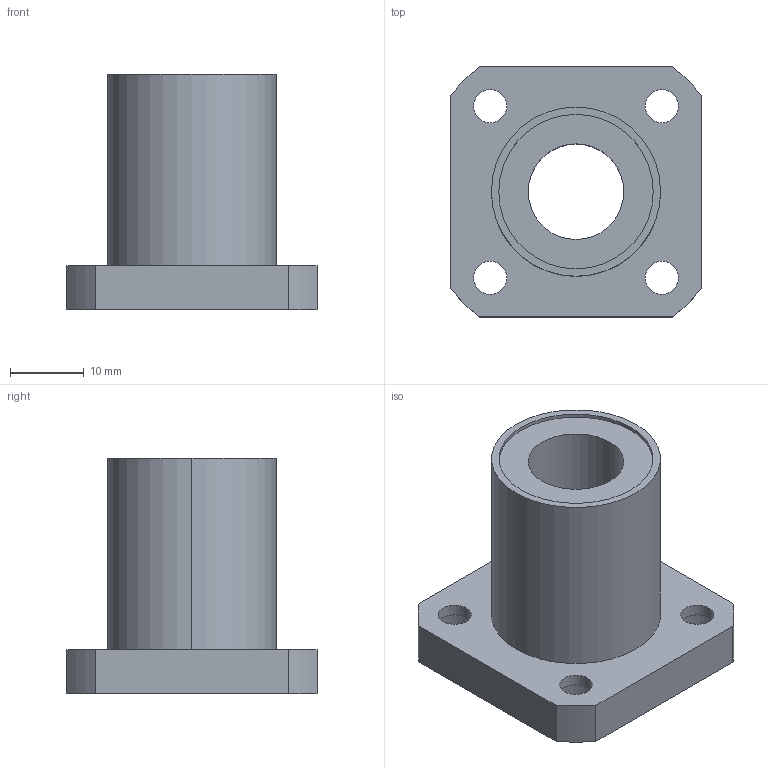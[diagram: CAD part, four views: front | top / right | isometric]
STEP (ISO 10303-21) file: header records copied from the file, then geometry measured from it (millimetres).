
FILE_DESCRIPTION((''),'2;1');
FILE_NAME('C:\Documents and Settings\ｿﾀﾀ蠑ｷ1\ｹﾙﾅﾁ ﾈｭｸ饅\ｺﾎﾇｰﾆﾄﾀﾏ\ﾁｦﾇｰ\LMK__UU\LMK13UU.stp','2005-06-15T09:47:46',('ｿﾀﾀ蠑ｷ1'),(''),'Autodesk Inventor 9','Autodesk Inventor 9','');
FILE_SCHEMA(('AUTOMOTIVE_DESIGN { 1 0 10303 214 1 1 1 1 }'));
Length unit declared in the file: millimetre
Products named in the file (1): LMK__
Bounding box: 34 x 34 x 32 mm (x, y, z)
Volume: 11987.7 mm3; surface area: 6387 mm2
Topology: 1 solids, 1 shells, 44 faces, 102 edges, 68 vertices
Faces by surface type: cylinder 30, plane 14
Entity records: 1329 total; most frequent: DIRECTION 252, CARTESIAN_POINT 215, ORIENTED_EDGE 204, AXIS2_PLACEMENT_3D 105, EDGE_CURVE 102, VERTEX_POINT 68, EDGE_LOOP 62, CIRCLE 60
